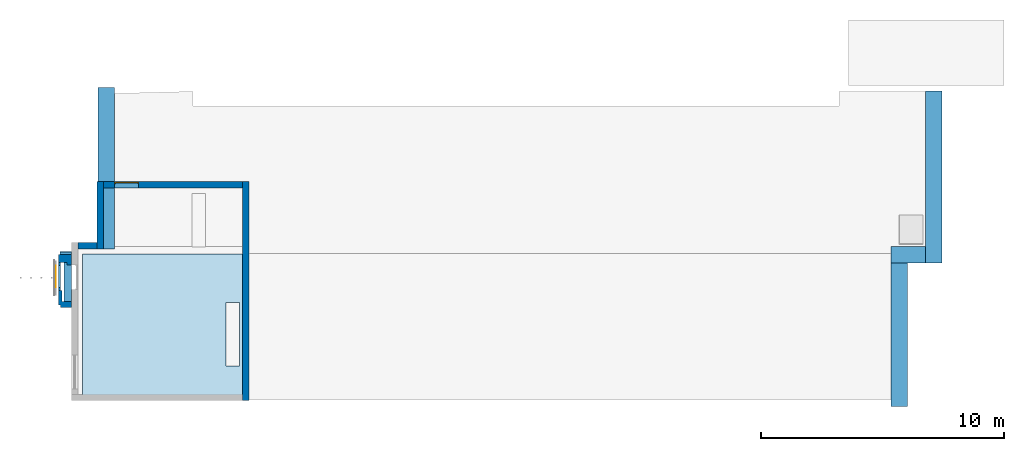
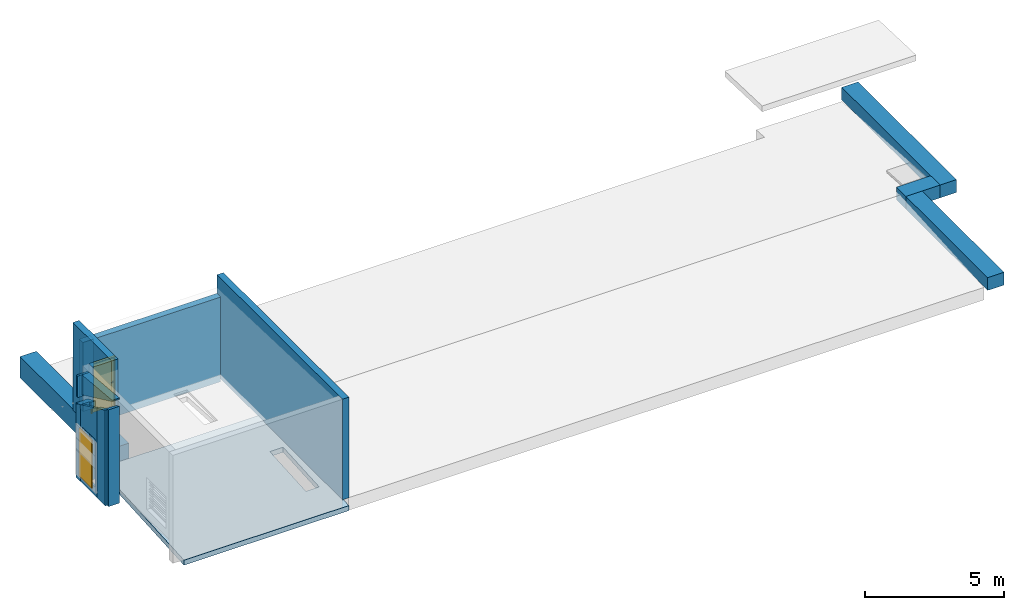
# One storey, part 2 of 6: 14 walls, 2 doors, 1 roof, 5 openings.
"""IFC2X3 building model written with IfcOpenShell, lengths in millimetres."""

from ifc_helpers import new_model, entity, si_unit, converted_unit, derived_unit, direction, frame, frame_2d, origin, origin_2d_with_axis, place, context, subcontext, project, spatial, rectangle, extrude, clip, halfspace, face_set, faceted_brep, surface_model, source, transform, mapped, material, material_list, layer, layer_set, layer_usage, type_object, type_shapes, element, fill, save


model = new_model("IFC2X3")

# Units and contexts
model_context = context("Model", 3, precision=0.01, world=origin(), true_north=direction((6.12303176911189e-17, 1.0)))
body_context = subcontext(model_context, "Body", "Model", "MODEL_VIEW")
ifc_project = project(units=[si_unit("LENGTHUNIT", "METRE", prefix="MILLI"), si_unit("AREAUNIT", "SQUARE_METRE"), si_unit("VOLUMEUNIT", "CUBIC_METRE"), converted_unit("PLANEANGLEUNIT", "DEGREE", entity("IfcRatioMeasure", 0.0174532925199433), si_unit("PLANEANGLEUNIT", "RADIAN"), dimensions=[0, 0, 0, 0, 0, 0, 0]), si_unit("MASSUNIT", "GRAM", prefix="KILO"), derived_unit("MASSDENSITYUNIT", [(si_unit("MASSUNIT", "GRAM", prefix="KILO"), 1), (si_unit("LENGTHUNIT", "METRE"), -3)]), si_unit("TIMEUNIT", "SECOND"), si_unit("FREQUENCYUNIT", "HERTZ"), si_unit("THERMODYNAMICTEMPERATUREUNIT", "DEGREE_CELSIUS"), derived_unit("THERMALTRANSMITTANCEUNIT", [(si_unit("MASSUNIT", "GRAM", prefix="KILO"), 1), (si_unit("THERMODYNAMICTEMPERATUREUNIT", "KELVIN"), -1), (si_unit("TIMEUNIT", "SECOND"), -3)]), derived_unit("VOLUMETRICFLOWRATEUNIT", [(si_unit("LENGTHUNIT", "METRE"), 3), (si_unit("TIMEUNIT", "SECOND"), -1)]), si_unit("ELECTRICCURRENTUNIT", "AMPERE"), si_unit("ELECTRICVOLTAGEUNIT", "VOLT"), si_unit("POWERUNIT", "WATT"), si_unit("FORCEUNIT", "NEWTON", prefix="KILO"), si_unit("ILLUMINANCEUNIT", "LUX"), si_unit("LUMINOUSFLUXUNIT", "LUMEN"), si_unit("LUMINOUSINTENSITYUNIT", "CANDELA"), derived_unit("USERDEFINED", [(si_unit("MASSUNIT", "GRAM", prefix="KILO"), -1), (si_unit("LENGTHUNIT", "METRE"), -2), (si_unit("TIMEUNIT", "SECOND"), 3), (si_unit("LUMINOUSFLUXUNIT", "LUMEN"), 1)]), derived_unit("LINEARVELOCITYUNIT", [(si_unit("LENGTHUNIT", "METRE"), 1), (si_unit("TIMEUNIT", "SECOND"), -1)]), si_unit("PRESSUREUNIT", "PASCAL"), derived_unit("USERDEFINED", [(si_unit("LENGTHUNIT", "METRE"), -2), (si_unit("MASSUNIT", "GRAM", prefix="KILO"), 1), (si_unit("TIMEUNIT", "SECOND"), -2)])], contexts=[model_context])

# Site, building, storey
site_placement = place(None, frame((-151.875543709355, 2715.0, 0.0)))
site = spatial("IfcSite", under=ifc_project, at=site_placement, Name="Surface", CompositionType="ELEMENT")
building_placement = place(site_placement, origin())
building = spatial("IfcBuilding", under=site, at=building_placement, CompositionType="ELEMENT")
storey_placement = place(building_placement, frame((0.0, 0.0, 13600.0)))
storey = spatial("IfcBuildingStorey", under=building, at=storey_placement, Name="Katusekorrus", CompositionType="ELEMENT", Elevation=13600.0000000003)

# Walls
ifc_material_1 = material(Name="Paint - Sand Beige")
wall_type_1 = type_object("IfcWallType", Name="SEIN - 008", PredefinedType="NOTDEFINED", material=ifc_material_1)
wall_1_placement = place(storey_placement, frame((-541.883383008, 5811.79428100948, -1.31026922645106e-09), z_axis=(0.0, 0.0, 1.0), x_axis=(0.0, 1.0, 0.0)))
element("IfcWall", 1, at=wall_1_placement, inside=storey, type_object=wall_type_1, material=ifc_material_1, Name="SEIN - 008 159267:SEIN - 008 159267", ObjectType="SEIN - 008 159267:SEIN - 008 159267", context=body_context, shape_type="SurfaceModel", body=[
    surface_model("IfcFaceBasedSurfaceModel", [(118.316650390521, 0.0, 0.0), (118.316650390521, 0.0, 3385.437178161), (439.264892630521, 0.0, 3235.419665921), (439.264892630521, 0.0, 0.0), (118.316650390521, 0.0, 3385.437178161), (118.316650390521, 0.0, 0.0), (118.316650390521, -358.582733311, 0.0), (118.316650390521, -358.582733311, 3385.437178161), (439.264892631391, 0.0, 3235.41966592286), (118.31665039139, 0.0, 3385.43717816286), (118.31665039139, -358.582733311, 3385.43717816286), (0.0, -358.582733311, 3440.74070443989), (0.0, -541.883383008, 3440.74070443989), (569.266048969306, -541.883383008, 3174.6545720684), (569.266048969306, -60.0, 3174.6545720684), (439.264892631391, -60.0, 3235.41966592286), (439.264892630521, 0.0, 0.0), (439.264892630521, 0.0, 3235.419665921), (439.264892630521, -60.0, 3235.419665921), (439.264892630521, -60.0, 0.0), (118.316650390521, 0.0, 0.0), (439.264892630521, 0.0, 0.0), (439.264892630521, -60.0, 0.0), (569.266048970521, -60.0, 0.0), (569.266048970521, -541.883383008, 0.0), (0.0, -541.883383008, 0.0), (0.0, -358.582733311, 0.0), (118.316650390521, -358.582733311, 0.0), (0.0, -358.582733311, 0.0), (0.0, -358.582733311, 3440.740704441), (118.316650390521, -358.582733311, 3385.437178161), (118.316650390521, -358.582733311, 0.0), (0.0, -358.582733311, 3440.740704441), (0.0, -358.582733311, 0.0), (0.0, -541.883383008, 0.0), (0.0, -541.883383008, 3440.740704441), (0.0, -541.883383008, 3440.740704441), (0.0, -541.883383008, 0.0), (569.266048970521, -541.883383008, 0.0), (569.266048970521, -541.883383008, 3174.654572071), (569.266048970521, -541.883383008, 0.0), (569.266048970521, -60.0, 0.0), (569.266048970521, -60.0, 3174.654572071), (569.266048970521, -541.883383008, 3174.654572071), (569.266048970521, -60.0, 0.0), (439.264892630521, -60.0, 0.0), (439.264892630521, -60.0, 3235.419665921), (569.266048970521, -60.0, 3174.654572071)], [face_set([[[0, 1, 2, 3]]]), face_set([[[4, 5, 6, 7]]]), face_set([[[8, 9, 10, 11, 12, 13, 14, 15]]]), face_set([[[16, 17, 18, 19]]]), face_set([[[20, 21, 22, 23, 24, 25, 26, 27]]]), face_set([[[28, 29, 30, 31]]]), face_set([[[32, 33, 34, 35]]]), face_set([[[36, 37, 38, 39]]]), face_set([[[40, 41, 42, 43]]]), face_set([[[44, 45, 46, 47]]])]),
])
wall_type_2 = type_object("IfcWallType", Name="SEIN - 006", PredefinedType="NOTDEFINED", material=ifc_material_1)
wall_2_placement = place(storey_placement, frame((-541.883383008, 4071.05752249, 0.0), z_axis=(0.0, 0.0, 1.0), x_axis=(0.0, 1.0, 0.0)))
element("IfcWall", 2, at=wall_2_placement, inside=storey, type_object=wall_type_2, material=ifc_material_1, Name="SEIN - 006 159396:SEIN - 006 159396", ObjectType="SEIN - 006 159396:SEIN - 006 159396", context=body_context, shape_type="SurfaceModel", body=[
    surface_model("IfcFaceBasedSurfaceModel", [(100.00001734, -82.139787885, 4207.6532834), (100.00001734, 0.0, 4207.6532834), (100.00165115, 0.0, 0.0), (100.00165115, -82.139787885, 0.0), (100.000017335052, 0.0, 4207.65328338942), (700.326573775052, 0.0, 3927.04885968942), (700.326573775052, -162.013561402, 3927.04885968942), (341.839903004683, -162.013561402, 4094.61257076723), (246.046817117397, -162.013561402, 4139.38814061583), (246.046817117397, -541.758928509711, 4139.38814061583), (1.01578351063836e-08, -541.758928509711, 4254.39525562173), (1.01578351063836e-08, -82.139787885, 4254.39525562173), (100.000017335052, -82.139787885, 4207.65328338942), (100.001651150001, 0.0, 0.0), (100.00001734, 0.0, 4207.6532834), (700.32657378, 0.0, 3927.0488597), (700.32810318, 0.0, 0.0), (0.00165115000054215, -82.139787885, 0.0), (0.00165115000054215, -541.758928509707, 0.0), (246.04681711, -541.758928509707, 0.0), (246.04681711, -162.013561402, 0.0), (341.84149484, -162.013561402, 0.0), (700.32810318, -162.013561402, 0.0), (700.32810318, 0.0, 0.0), (100.001651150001, 0.0, 0.0), (100.001651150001, -82.139787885, 0.0), (100.001651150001, -82.139787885, 0.0), (0.00165115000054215, -82.139787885, 0.0), (0.0, -82.139787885, 4254.3952556), (100.00001734, -82.139787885, 4207.6532834), (0.00165115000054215, -82.139787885, 0.0), (0.00165115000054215, -541.758928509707, 0.0), (0.0, -541.758928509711, 4254.3952556), (0.0, -82.139787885, 4254.3952556), (0.0, -541.758928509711, 4254.3952556), (0.00165115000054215, -541.758928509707, 0.0), (246.04681711, -541.758928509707, 0.0), (246.04681711, -541.758928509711, 4139.3881406), (246.04681711, -162.013561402, 0.0), (246.04681711, -162.013561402, 4139.3881406), (246.04681711, -541.758928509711, 4139.3881406), (246.04681711, -541.758928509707, 0.0), (246.04681711, -162.013561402, 4139.3881406), (246.04681711, -162.013561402, 0.0), (341.84149484, -162.013561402, 0.0), (341.83990302, -162.013561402, 4094.6125708), (341.83990302, -162.013561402, 4094.6125708), (341.84149484, -162.013561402, 0.0), (700.32810318, -162.013561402, 0.0), (700.32657378, -162.013561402, 3927.0488597), (700.32657378, 0.0, 3927.0488597), (700.32657378, -162.013561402, 3927.0488597), (700.32810318, -162.013561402, 0.0), (700.32810318, 0.0, 0.0)], [face_set([[[0, 1, 2, 3]]]), face_set([[[4, 5, 6, 7, 8, 9, 10, 11, 12]]]), face_set([[[13, 14, 15, 16]]]), face_set([[[17, 18, 19, 20, 21, 22, 23, 24, 25]]]), face_set([[[26, 27, 28, 29]]]), face_set([[[30, 31, 32, 33]]]), face_set([[[34, 35, 36, 37]]]), face_set([[[38, 39, 40, 41]]]), face_set([[[42, 43, 44, 45]]]), face_set([[[46, 47, 48, 49]]]), face_set([[[50, 51, 52, 53]]])]),
])

# Wall, opening
ifc_material_2 = material(Name="Tellis")
ifc_layer_1 = layer(ifc_material_2, 90.0)
ifc_material_3 = material(Name="__Hall krohv")
ifc_layer_2 = layer(ifc_material_3, 10.0)
ifc_layer_set_1 = layer_set([ifc_layer_1, ifc_layer_2], Name="Basic Wall:SS-01_ol.olev tellissein100")
ifc_layer_usage_1 = layer_usage(ifc_layer_set_1, "AXIS2", "NEGATIVE", 50.0)
wall_type_3 = type_object("IfcWallType", Name="Basic Wall:SS-01_ol.olev tellissein100", PredefinedType="STANDARD", material=ifc_layer_set_1)
wall_3_placement = place(storey_placement, frame((-481.883383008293, 6301.05917364, 3479.05844697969)))
wall_3 = element("IfcWallStandardCase", 3, at=wall_3_placement, inside=storey, type_object=wall_type_3, material=ifc_layer_usage_1, Name="SEIN - 008", ObjectType="Basic Wall:SS-01_ol.olev tellissein100", context=body_context, shape_type="SweptSolid", body=[
    extrude(rectangle(XDim=481.883383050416, YDim=100.000000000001, at=frame_2d((240.941691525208, 0.0), x_axis=(-1.0, 0.0))), origin(), (0.0, 0.0, 1.0), 943.904940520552),
])
opening_1_placement = place(wall_3_placement, frame((-2118.25107149, -60.0, 933.987574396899)))
element("IfcOpeningElement", 4, at=opening_1_placement, cuts=wall_3, Name="SEIN - 008", ObjectType="Opening", context=body_context, shape_type="Brep", body=[
    faceted_brep([(0.0, 120.0, 1458.7007011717), (0.0, 0.0, 1469.51964603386), (2600.01, 0.0, 1469.51964603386), (2600.01, 120.0, 1458.7007011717), (0.0, 120.0, 0.0), (2600.01, 120.0, 0.0), (2600.01, 0.0, 10.8189448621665), (0.0, 0.0, 10.8189448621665)], [[[0, 1, 2, 3]], [[4, 5, 6, 7]], [[4, 7, 1, 0]], [[7, 6, 2, 1]], [[6, 5, 3, 2]], [[5, 4, 0, 3]]]),
])

# Wall, openings, door
ifc_layer_usage_2 = layer_usage(ifc_layer_set_1, "AXIS2", "NEGATIVE", 50.0)
wall_4_placement = place(storey_placement, frame((-491.883383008, 4771.38562567, 0.0), z_axis=(0.0, 0.0, 1.0), x_axis=(0.0, 1.0, 0.0)))
wall_4 = element("IfcWallStandardCase", 5, at=wall_4_placement, inside=storey, type_object=wall_type_3, material=ifc_layer_usage_2, Name="SEIN - 008", ObjectType="Basic Wall:SS-01_ol.olev tellissein100", context=body_context, shape_type="SweptSolid", body=[
    extrude(rectangle(XDim=1158.72530573, YDim=100.0, at=frame_2d((579.362652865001, 0.0), x_axis=(-1.0, 0.0))), origin(), (0.0, 0.0, 1.0), 3927.04814513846),
])
opening_2_placement = place(wall_4_placement, origin())
element("IfcOpeningElement", 6, at=opening_2_placement, cuts=wall_4, Name="SEIN - 008", ObjectType="Opening", context=body_context, shape_type="SweptSolid", body=[
    extrude(rectangle(XDim=4944.00524554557, YDim=9888.01049109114, at=frame_2d((1.36424205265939e-12, 9.09494701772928e-13), x_axis=(1.0, 0.0))), frame((3028.68666155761, -4944.00524554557, 5240.09646291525), z_axis=(0.0, 1.0, 0.0), x_axis=(-0.423445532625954, 0.0, -0.905921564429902)), (0.0, 0.0, 1.0), 9888.01049109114),
])
opening_3_placement = place(wall_4_placement, frame((-4771.38562567, -491.883383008, 0.0), z_axis=(0.0, 0.0, 1.0), x_axis=(0.0, -1.0, 0.0)))
opening_3 = element("IfcOpeningElement", 7, at=opening_3_placement, cuts=wall_4, Name="SEIN - 008", ObjectType="Opening", context=body_context, shape_type="SweptSolid", body=[
    extrude(rectangle(XDim=2100.0, YDim=903.930664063, at=frame_2d((5.40012479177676e-13, 0.0), x_axis=(0.0, 1.0))), frame((-338.883383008, 5344.60067749, 1431.05764388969), z_axis=(-1.0, 0.0, 0.0), x_axis=(0.0, -1.0, 0.0)), (0.0, 0.0, 1.0), 306.0),
])
ifc_material_4 = material(Name="Wood - Pine Grained Horizontal")
door_style_1 = type_object("IfcDoorStyle", Name="liftiuks", ConstructionType="NOTDEFINED", OperationType="NOTDEFINED", ParameterTakesPrecedence=False, Sizeable=False, material=ifc_material_4)
shared_shape_1 = source(origin(), body_context, "Body", "SweptSolid", [
    extrude(rectangle(XDim=451.965332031, YDim=40.0, at=origin_2d_with_axis()), frame((225.982666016, 22.0, 0.0), z_axis=(0.0, 0.0, 1.0), x_axis=(-1.0, 0.0, 0.0)), (0.0, 0.0, 1.0), 2100.0),
    extrude(rectangle(XDim=40.0, YDim=451.965332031, at=origin_2d_with_axis()), frame((677.947998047, 22.0, 0.0), z_axis=(0.0, 0.0, 1.0), x_axis=(0.0, 1.0, 0.0)), (0.0, 0.0, 1.0), 2100.0),
])
type_shapes(door_style_1, [shared_shape_1])
door_1_placement = place(opening_3_placement, frame((-644.883383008, 4892.63534545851, 381.057643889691), z_axis=(0.0, 0.0, 1.0), x_axis=(0.0, 1.0, 0.0)))
door_1 = element("IfcDoor", 8, at=door_1_placement, inside=storey, type_object=door_style_1, material=ifc_material_4, Name="liftiuks:liftiuks", ObjectType="liftiuks", OverallHeight=2100.0, OverallWidth=903.930664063, context=body_context, shape_type="MappedRepresentation", body=[
    mapped(shared_shape_1, transform((0.0, 0.0, 0.0), scale=1.0)),
])
fill(opening_3, door_1)

# Wall, opening
ifc_layer_3 = layer(ifc_material_2, 309.0)
ifc_layer_set_2 = layer_set([ifc_layer_3], Name="Basic Wall:Liftišahti sein")
ifc_layer_usage_3 = layer_usage(ifc_layer_set_2, "AXIS2", "NEGATIVE", 154.5)
wall_type_4 = type_object("IfcWallType", Name="Basic Wall:Liftišahti sein", PredefinedType="STANDARD", material=ifc_layer_set_2)
wall_5_placement = place(storey_placement, frame((-154.624454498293, 6351.05917364, 3497.7552326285), z_axis=(0.0, 0.0, 1.0), x_axis=(0.0, -1.0, 0.0)))
wall_5 = element("IfcWallStandardCase", 9, at=wall_5_placement, inside=storey, type_object=wall_type_4, material=ifc_layer_usage_3, Name="SEIN - 006", ObjectType="Basic Wall:Liftišahti sein", context=body_context, shape_type="Clipping", body=[
    clip(extrude(rectangle(XDim=2280.0, YDim=309.0, at=frame_2d((1140.0, -2.8421709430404e-14), x_axis=(-1.0, 0.0))), origin(), (0.0, 0.0, 1.0), 1121.75231987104), halfspace(frame((0.0, -154.5, 916.192367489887), z_axis=(-0.0897936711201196, 0.0, 0.995960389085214), x_axis=(0.0, 1.0, 0.0)), False)),
])
opening_4_placement = place(wall_5_placement, origin())
element("IfcOpeningElement", 10, at=opening_4_placement, cuts=wall_5, Name="SEIN - 006", ObjectType="Opening", context=body_context, shape_type="SweptSolid", body=[
    extrude(rectangle(XDim=3856.12743149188, YDim=7712.25486298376, at=frame_2d((1.13686837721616e-13, -4.54747350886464e-13), x_axis=(1.0, 0.0))), frame((1744.84874651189, -3856.12743149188, -1312.71332488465), z_axis=(0.0, 1.0, 0.0), x_axis=(-0.423445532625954, 0.0, 0.905921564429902)), (0.0, 0.0, 1.0), 7712.25486298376),
])

# Wall, opening, door
ifc_material_5 = material(Name="External face timepruun h=1100mm")
ifc_layer_4 = layer(ifc_material_5, 54.0)
ifc_material_6 = material(Name="Core Mineral wool Mineral Wool h=1100mm")
ifc_layer_5 = layer(ifc_material_6, 200.0)
ifc_material_7 = material(Name="__Kips GKB_niiskuskindel")
ifc_layer_6 = layer(ifc_material_7, 12.0)
ifc_layer_set_3 = layer_set([ifc_layer_4, ifc_layer_5, ifc_layer_6], Name="Basic Wall:VS-3_vent.ruumide ja ladude välissein")
ifc_layer_usage_4 = layer_usage(ifc_layer_set_3, "AXIS2", "NEGATIVE", 133.0)
wall_type_5 = type_object("IfcWallType", Name="Basic Wall:VS-3_vent.ruumide ja ladude välissein", PredefinedType="STANDARD", material=ifc_layer_set_3)
wall_6_placement = place(storey_placement, frame((1770.0, 9130.99996304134, -122.446356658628)))
wall_6 = element("IfcWallStandardCase", 11, at=wall_6_placement, inside=storey, type_object=wall_type_5, material=ifc_layer_usage_4, Name="Basic Wall:VS-3_vent.ruumide ja ladude välissein", ObjectType="Basic Wall:VS-3_vent.ruumide ja ladude välissein", context=body_context, shape_type="SweptSolid", body=[
    extrude(rectangle(XDim=5280.49349250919, YDim=266.0, at=frame_2d((2640.24674625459, -1.70530256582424e-13), x_axis=(-1.0, 0.0))), origin(), (0.0, 0.0, 1.0), 3722.44635665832),
])
opening_5_placement = place(wall_6_placement, frame((0.0345937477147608, -133.0, 322.446356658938)))
opening_5 = element("IfcOpeningElement", 12, at=opening_5_placement, cuts=wall_6, Name="Ühepoolsed:VU-04:1", ObjectType="Opening", context=body_context, shape_type="SweptSolid", body=[
    extrude(rectangle(XDim=2199.99999999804, YDim=1000.0, at=frame_2d((1099.99999999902, 500.0), x_axis=(1.0, 0.0))), frame((0.0, 0.0, 0.0), z_axis=(0.0, 1.0, 0.0), x_axis=(0.0, 0.0, 1.0)), (0.0, 0.0, 1.0), 266.0),
])
ifc_material_8 = material(Name="_Alumiiniumprofiil - must")
ifc_material_9 = material(Name="Steel/Aluminium")
ifc_material_list_1 = material_list([ifc_material_8, ifc_material_9])
ifc_material_list_2 = material_list([ifc_material_8, ifc_material_9])
door_style_2 = type_object("IfcDoorStyle", Name="VU-04", ConstructionType="NOTDEFINED", OperationType="FOLDING_TO_LEFT", ParameterTakesPrecedence=False, Sizeable=False, material=ifc_material_list_2)
shared_shape_2 = source(origin(), body_context, "Body", "Brep", [
    faceted_brep([(900.0, 156.0, 1112.5), (805.0, 156.0, 1112.5), (805.0, 151.0, 1112.5), (925.0, 151.0, 1112.5), (925.0, 194.0, 1112.5), (900.0, 194.0, 1112.5), (900.0, 156.0, 1087.5), (900.0, 194.0, 1087.5), (925.0, 194.0, 1087.5), (925.0, 151.0, 1087.5), (805.0, 151.0, 1087.5), (805.0, 156.0, 1087.5)], [[[0, 1, 2, 3, 4, 5]], [[6, 7, 8, 9, 10, 11]], [[5, 7, 6, 0]], [[4, 8, 7, 5]], [[3, 9, 8, 4]], [[2, 10, 9, 3]], [[1, 11, 10, 2]], [[0, 6, 11, 1]]]),
    faceted_brep([(887.500000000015, 194.0, 1137.5), (937.500000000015, 194.0, 1137.5), (937.500000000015, 196.0, 1137.5), (887.500000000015, 196.0, 1137.5), (887.500000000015, 194.0, 1017.5), (887.500000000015, 196.0, 1017.5), (937.500000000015, 196.0, 1017.5), (937.500000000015, 194.0, 1017.5)], [[[0, 1, 2, 3]], [[4, 5, 6, 7]], [[3, 5, 4, 0]], [[2, 6, 5, 3]], [[1, 7, 6, 2]], [[0, 4, 7, 1]]]),
    faceted_brep([(900.0, 286.0, 1112.5), (900.0, 248.0, 1112.5), (925.0, 248.0, 1112.5), (925.0, 291.0, 1112.5), (805.0, 291.0, 1112.5), (805.0, 286.0, 1112.5), (900.0, 286.0, 1087.5), (805.0, 286.0, 1087.5), (805.0, 291.0, 1087.5), (925.0, 291.0, 1087.5), (925.0, 248.0, 1087.5), (900.0, 248.0, 1087.5)], [[[0, 1, 2, 3, 4, 5]], [[6, 7, 8, 9, 10, 11]], [[1, 0, 6, 11]], [[2, 1, 11, 10]], [[3, 2, 10, 9]], [[4, 3, 9, 8]], [[5, 4, 8, 7]], [[0, 5, 7, 6]]]),
    faceted_brep([(887.500000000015, 248.0, 1137.5), (887.500000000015, 246.0, 1137.5), (937.500000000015, 246.0, 1137.5), (937.500000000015, 248.0, 1137.5), (887.500000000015, 248.0, 1017.5), (937.500000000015, 248.0, 1017.5), (937.500000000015, 246.0, 1017.5), (887.500000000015, 246.0, 1017.5)], [[[0, 1, 2, 3]], [[4, 5, 6, 7]], [[1, 0, 4, 7]], [[2, 1, 7, 6]], [[3, 2, 6, 5]], [[0, 3, 5, 4]]]),
    faceted_brep([(0.0, 156.0, 0.0), (0.0, 246.0, 0.0), (25.0, 246.0, 0.0), (25.0, 196.0, 0.0), (40.0, 196.0, 0.0), (40.0, 156.0, 0.0), (40.0, 156.0, 2160.0), (960.0, 156.0, 2160.0), (960.0, 156.0, 0.0), (1000.0, 156.0, 0.0), (1000.0, 156.0, 2200.0), (0.0, 156.0, 2200.0), (40.0, 196.0, 2160.0), (25.0, 196.0, 2175.0), (975.0, 196.0, 2175.0), (975.0, 196.0, 0.0), (960.0, 196.0, 0.0), (960.0, 196.0, 2160.0), (25.0, 246.0, 2175.0), (0.0, 246.0, 2200.0), (1000.0, 246.0, 2200.0), (1000.0, 246.0, 0.0), (975.0, 246.0, 0.0), (975.0, 246.0, 2175.0)], [[[0, 1, 2, 3, 4, 5]], [[5, 6, 7, 8, 9, 10, 11, 0]], [[4, 12, 6, 5]], [[3, 13, 14, 15, 16, 17, 12, 4]], [[2, 18, 13, 3]], [[1, 19, 20, 21, 22, 23, 18, 2]], [[0, 11, 19, 1]], [[9, 21, 20, 10]], [[8, 16, 15, 22, 21, 9]], [[7, 17, 16, 8]], [[14, 23, 22, 15]], [[6, 12, 17, 7]], [[13, 18, 23, 14]], [[10, 20, 19, 11]]]),
    faceted_brep([(975.0, 196.0, 2175.0), (25.0, 196.0, 2175.0), (25.0, 196.0, 20.0), (975.0, 196.0, 20.0), (975.0, 246.0, 2175.0), (975.0, 246.0, 20.0), (25.0, 246.0, 20.0), (25.0, 246.0, 2175.0)], [[[0, 1, 2, 3]], [[4, 5, 6, 7]], [[3, 5, 4, 0]], [[2, 6, 5, 3]], [[1, 7, 6, 2]], [[0, 4, 7, 1]]]),
])
type_shapes(door_style_2, [shared_shape_2])
door_2_placement = place(opening_5_placement, origin())
door_2 = element("IfcDoor", 13, at=door_2_placement, inside=storey, type_object=door_style_2, material=ifc_material_list_1, Name="Ühepoolsed:VU-04", ObjectType="VU-04", OverallHeight=2199.99999999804, OverallWidth=1000.0, context=body_context, shape_type="MappedRepresentation", body=[
    mapped(shared_shape_2, transform((0.0, 0.0, 0.0), scale=1.0)),
])
fill(opening_5, door_2)

# Walls
ifc_layer_usage_5 = layer_usage(ifc_layer_set_3, "AXIS2", "NEGATIVE", 133.0)
wall_7_placement = place(storey_placement, frame((7183.49349250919, 9263.99996304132, 0.0), z_axis=(0.0, 0.0, 1.0), x_axis=(0.0, -1.0, 0.0)))
element("IfcWallStandardCase", 14, at=wall_7_placement, inside=storey, type_object=wall_type_5, material=ifc_layer_usage_5, Name="Basic Wall:VS-3_vent.ruumide ja ladude välissein", ObjectType="Basic Wall:VS-3_vent.ruumide ja ladude välissein", context=body_context, shape_type="SweptSolid", body=[
    extrude(rectangle(XDim=9034.09533047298, YDim=266.0, at=frame_2d((4517.04766523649, -2.41584530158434e-13), x_axis=(-1.0, 0.0))), origin(), (0.0, 0.0, 1.0), 4420.0),
])
ifc_layer_usage_6 = layer_usage(ifc_layer_set_3, "AXIS2", "NEGATIVE", 133.0)
wall_8_placement = place(storey_placement, frame((266.0, 6602.0, 560.0)))
element("IfcWallStandardCase", 15, at=wall_8_placement, inside=storey, type_object=wall_type_5, material=ifc_layer_usage_6, Name="Basic Wall:VS-3_vent.ruumide ja ladude välissein", ObjectType="Basic Wall:VS-3_vent.ruumide ja ladude välissein", context=body_context, shape_type="SweptSolid", body=[
    extrude(rectangle(XDim=789.999999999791, YDim=266.0, at=frame_2d((394.999999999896, 2.1316282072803e-13), x_axis=(-1.0, 0.0))), origin(), (0.0, 0.0, 1.0), 3860.0),
])
ifc_layer_usage_7 = layer_usage(ifc_layer_set_3, "AXIS2", "NEGATIVE", 133.0)
wall_9_placement = place(storey_placement, frame((1189.0, 6469.0, 559.790190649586), z_axis=(0.0, 0.0, 1.0), x_axis=(0.0, 1.0, 0.0)))
element("IfcWallStandardCase", 16, at=wall_9_placement, inside=storey, type_object=wall_type_5, material=ifc_layer_usage_7, Name="Basic Wall:VS-3_vent.ruumide ja ladude välissein", ObjectType="Basic Wall:VS-3_vent.ruumide ja ladude välissein", context=body_context, shape_type="SweptSolid", body=[
    extrude(rectangle(XDim=2795.0, YDim=266.0, at=frame_2d((1397.5, -5.6843418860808e-14), x_axis=(-1.0, 0.0))), origin(), (0.0, 0.0, 1.0), 3860.2098093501),
])
ifc_layer_usage_8 = layer_usage(ifc_layer_set_3, "AXIS2", "NEGATIVE", 133.0)
wall_10_placement = place(storey_placement, frame((1322.0, 9130.99996304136, 559.790190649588)))
element("IfcWallStandardCase", 17, at=wall_10_placement, inside=storey, type_object=wall_type_5, material=ifc_layer_usage_8, Name="Basic Wall:VS-3_vent.ruumide ja ladude välissein", ObjectType="Basic Wall:VS-3_vent.ruumide ja ladude välissein", context=body_context, shape_type="SweptSolid", body=[
    extrude(rectangle(XDim=447.999999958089, YDim=266.0, at=frame_2d((223.999999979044, 1.56319401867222e-13), x_axis=(-1.0, 0.0))), origin(), (0.0, 0.0, 1.0), 3040.20980935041),
])
ifc_material_10 = material(Name="__Tuuletõkkeplaat")
ifc_layer_7 = layer(ifc_material_10, 9.0)
ifc_material_11 = material(Name="__Soojustus EPS")
ifc_layer_8 = layer(ifc_material_11, 200.0)
ifc_material_12 = material(Name="Brick, Common")
ifc_layer_9 = layer(ifc_material_12, 450.0)
ifc_material_13 = material(Name="__Kips GN13_tava")
ifc_layer_10 = layer(ifc_material_13, 20.0)
ifc_layer_set_4 = layer_set([ifc_layer_7, ifc_layer_8, ifc_layer_9, ifc_layer_10], Name="Basic Wall:Parapett")
ifc_layer_usage_9 = layer_usage(ifc_layer_set_4, "AXIS2", "NEGATIVE", 339.5)
wall_type_6 = type_object("IfcWallType", Name="Basic Wall:Parapett", PredefinedType="STANDARD", material=ifc_layer_set_4)
wall_11_placement = place(storey_placement, frame((1430.5, 6469.0, -366.05879994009), z_axis=(0.0, 0.0, 1.0), x_axis=(0.0, 1.0, 0.0)))
element("IfcWallStandardCase", 18, at=wall_11_placement, inside=storey, type_object=wall_type_6, material=ifc_layer_usage_9, Name="SEIN - 003", ObjectType="Basic Wall:Parapett", context=body_context, shape_type="SweptSolid", body=[
    extrude(rectangle(XDim=6660.50000000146, YDim=679.0, at=frame_2d((3330.25000000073, 0.0), x_axis=(-1.0, 0.0))), origin(), (0.0, 0.0, 1.0), 925.848990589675),
])
ifc_layer_usage_10 = layer_usage(ifc_layer_set_4, "AXIS2", "POSITIVE", -339.5)
wall_12_placement = place(storey_placement, frame((35506.1162682, 5891.0, 0.0), z_axis=(0.0, 0.0, 1.0), x_axis=(0.0, 1.0, 0.0)))
element("IfcWallStandardCase", 19, at=wall_12_placement, inside=storey, type_object=wall_type_6, material=ifc_layer_usage_10, Name="SEIN - 002", ObjectType="Basic Wall:Parapett", context=body_context, shape_type="SweptSolid", body=[
    extrude(rectangle(XDim=7089.00000000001, YDim=679.000000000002, at=frame_2d((3544.5, 0.0), x_axis=(-1.0, 0.0))), origin(), (0.0, 0.0, 1.0), 559.884730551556),
])
ifc_layer_usage_11 = layer_usage(ifc_layer_set_4, "AXIS2", "POSITIVE", -339.5)
wall_13_placement = place(storey_placement, frame((34081.1162682, -0.0953674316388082, 0.0), z_axis=(0.0, 0.0, 1.0), x_axis=(0.0, 1.0, 0.0)))
element("IfcWallStandardCase", 20, at=wall_13_placement, inside=storey, type_object=wall_type_6, material=ifc_layer_usage_11, Name="SEIN - 003", ObjectType="Basic Wall:Parapett", context=body_context, shape_type="SweptSolid", body=[
    extrude(rectangle(XDim=5891.09536743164, YDim=679.000000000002, at=frame_2d((2945.54768371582, 0.0), x_axis=(-1.0, 0.0))), origin(), (0.0, 0.0, 1.0), 559.790190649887),
])
ifc_layer_usage_12 = layer_usage(ifc_layer_set_4, "AXIS2", "POSITIVE", -339.5)
wall_14_placement = place(storey_placement, frame((33741.6162682, 6230.5, 0.0)))
element("IfcWallStandardCase", 21, at=wall_14_placement, inside=storey, type_object=wall_type_6, material=ifc_layer_usage_12, Name="SEIN - 002", ObjectType="Basic Wall:Parapett", context=body_context, shape_type="SweptSolid", body=[
    extrude(rectangle(XDim=1425.00000000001, YDim=678.999999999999, at=frame_2d((712.500000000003, 1.70530256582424e-13), x_axis=(-1.0, 0.0))), origin(), (0.0, 0.0, 1.0), 559.884730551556),
])

# Roof
ifc_material_14 = material(Name="Betoon paneel")
roof_placement = place(storey_placement, frame((459.875545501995, 229.904632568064, -564.560585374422)))
element("IfcRoof", 22, at=roof_placement, inside=storey, material=ifc_material_14, Name="Basic Roof:Vent.ruumi õõnespaneelid", ObjectType="Basic Roof:Vent.ruumi õõnespaneelid", ShapeType="NOTDEFINED", context=body_context, shape_type="Brep", body=[
    faceted_brep([(6856.61794700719, 0.0, 220.449623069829), (0.0, 0.0, 220.449623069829), (0.0, 0.0, 0.0), (6856.61794700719, 0.0, 0.0), (0.0, 6050.04768371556, 386.997831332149), (0.0, 6050.04768371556, 607.447454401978), (6856.61794700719, 6050.04768371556, 386.997831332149), (6856.61794700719, 6050.04768371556, 607.447454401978), (5902.617983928, 4034.89477457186, 258.09640006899), (5902.617983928, 1435.14030142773, 91.8002986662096), (6452.61798396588, 1435.14030142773, 91.8002986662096), (6452.61798396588, 4034.89477457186, 258.09640006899), (5902.617983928, 1435.14030142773, 312.249921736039), (5902.617983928, 4034.89477457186, 478.546023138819), (6452.61798396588, 4034.89477457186, 478.546023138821), (6452.61798396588, 1435.14030142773, 312.249921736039)], [[[0, 1, 2, 3]], [[4, 2, 1, 5]], [[3, 6, 7, 0]], [[4, 6, 3, 2], [8, 9, 10, 11]], [[7, 5, 1, 0], [12, 13, 14, 15]], [[6, 4, 5, 7]], [[8, 13, 12, 9]], [[9, 12, 15, 10]], [[10, 15, 14, 11]], [[13, 8, 11, 14]]]),
])

save(model, "model.ifc")
